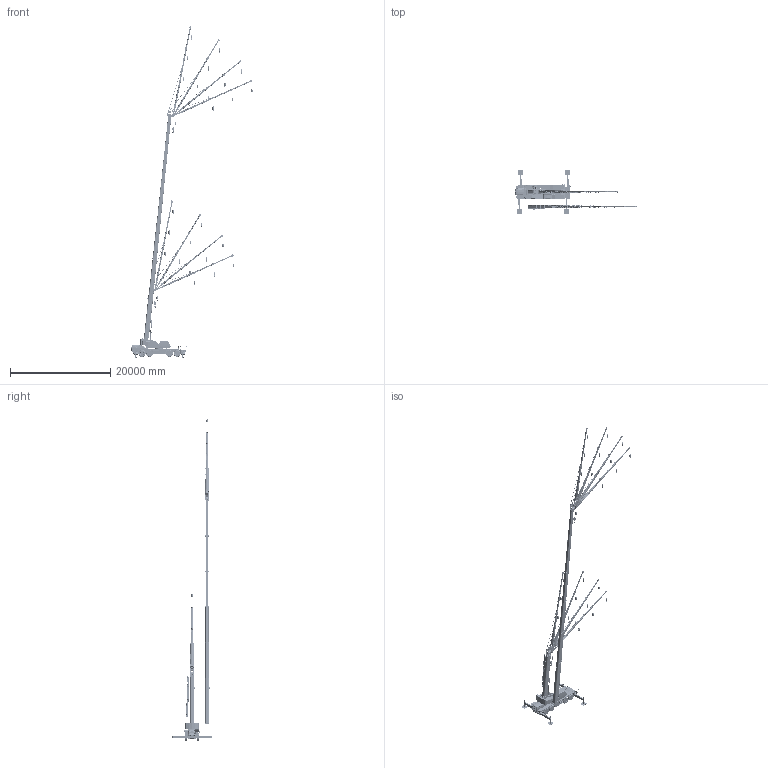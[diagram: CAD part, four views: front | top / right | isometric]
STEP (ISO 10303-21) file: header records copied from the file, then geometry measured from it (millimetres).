
FILE_DESCRIPTION(('CATIA V5 STEP Exchange','CAx-IF Rec.Pracs.--- Model Styling and Organization---1.4--- 2014-01-23'),'2;1');
FILE_NAME('\\Iba001\cad\CR\HP用CADデータ\03A\STP\SL-850Rf 3D.stp','2019-11-28T02:08:19+00:00',('none'),('none'),'CATIA Version 5-6 Release 2017 SP5 HF19','CATIA V5 STEP AP214','none');
FILE_SCHEMA(('AUTOMOTIVE_DESIGN { 1 0 10303 214 1 1 1 1 }'));
Products named in the file (51): SL-850Rf 3D; SL-850Rf UPPER; SL-850Rf UPPER STRUCTURE; SL-850Rf TABLE; SL-850Rf CAB; SL-850Rf MACHINE ROOM; SL-850Rf COUNTER WEIGHT; SL-850Rf DERRICK CYLINDER-1; SL-850Rf DERRICK CYLINDER-2; SL-850Rf BOOM JIB Min; SL-850Rf BOOM Min; SL-850Rf BOOM1; SL-850Rf BOOM2; SL-850Rf BOOM3; SL-850Rf BOOM4; SL-850Rf BOOM5; SL-850Rf BOOM6; SL-850Rf JIB; SL-850Rf JIB 9.52m 5deg; SL-850Rf JIB1; SL-850Rf JIB2; SL-850Rf JIB3; SL-850Rf JIB4; SL-850Rf JIB TENSION ROD; SL-850Rf JIB 9.52m 25deg; SL-850Rf JIB 9.52m 45deg; SL-850Rf JIB 9.52m 60deg; SL-850Rf JIB 13.8m 5deg; SL-850Rf JIB 13.8m 25deg; SL-850Rf JIB 13.8m 45deg; SL-850Rf JIB 13.8m 60deg; SL-850Rf JIB 18.0m 5deg; SL-850Rf JIB 18.0m 25deg; SL-850Rf JIB 18.0m 45deg; SL-850Rf JIB 18.0m 60deg; SL-850Rf JIB Stowed; SL-850Rf JIB TENSION ROD Stowed; SL-850Rf HOOK 5t; SL-850Rf HOOK 35t; SL-850Rf BOOM JIB Max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
Assembly tree (151 placements, depth 6):
  SL-850Rf 3D
    SL-850Rf UPPER
      SL-850Rf UPPER STRUCTURE
        SL-850Rf TABLE
        SL-850Rf CAB
        SL-850Rf MACHINE ROOM
        SL-850Rf COUNTER WEIGHT
        SL-850Rf DERRICK CYLINDER-1
        SL-850Rf DERRICK CYLINDER-2
      SL-850Rf BOOM JIB Min
        SL-850Rf BOOM Min
          SL-850Rf BOOM1
          SL-850Rf BOOM2
          SL-850Rf BOOM3
          SL-850Rf BOOM4
          SL-850Rf BOOM5
          SL-850Rf BOOM6
        SL-850Rf JIB
          SL-850Rf JIB 9.52m 5deg
            SL-850Rf JIB1
            SL-850Rf JIB2
            SL-850Rf JIB3
            SL-850Rf JIB4
            SL-850Rf JIB TENSION ROD
          SL-850Rf JIB 9.52m 25deg
            SL-850Rf JIB1
            SL-850Rf JIB2
            SL-850Rf JIB3
            SL-850Rf JIB4
            SL-850Rf JIB TENSION ROD
          SL-850Rf JIB 9.52m 45deg
            SL-850Rf JIB1
            SL-850Rf JIB2
            SL-850Rf JIB3
            SL-850Rf JIB4
            SL-850Rf JIB TENSION ROD
          SL-850Rf JIB 9.52m 60deg
            SL-850Rf JIB1
            SL-850Rf JIB2
            SL-850Rf JIB3
            SL-850Rf JIB4
            SL-850Rf JIB TENSION ROD
          SL-850Rf JIB 13.8m 5deg
            SL-850Rf JIB1
            SL-850Rf JIB2
            SL-850Rf JIB3
            SL-850Rf JIB4
            SL-850Rf JIB TENSION ROD
          SL-850Rf JIB 13.8m 25deg
            SL-850Rf JIB1
            SL-850Rf JIB2
            SL-850Rf JIB3
            SL-850Rf JIB4
            SL-850Rf JIB TENSION ROD
          SL-850Rf JIB 13.8m 45deg
            SL-850Rf JIB1
            SL-850Rf JIB2
            SL-850Rf JIB3
            SL-850Rf JIB4
            SL-850Rf JIB TENSION ROD
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Bounding box: 24196.46 x 8600 x 66258.73 mm (x, y, z)
Volume: 120899517751.6 mm3; surface area: 1355917869.1 mm2
Topology: 473 solids, 481 shells, 27755 faces, 75083 edges, 48957 vertices
Faces by surface type: plane 17950, cylinder 5679, extrusion 2421, torus 1038, bspline 471, cone 170, sphere 24, revolution 2
Entity records: 180678 total; most frequent: CARTESIAN_POINT 73905, ORIENTED_EDGE 24524, DIRECTION 16508, EDGE_CURVE 12262, VERTEX_POINT 7978, VECTOR 7939, LINE 7482, AXIS2_PLACEMENT_3D 5422
